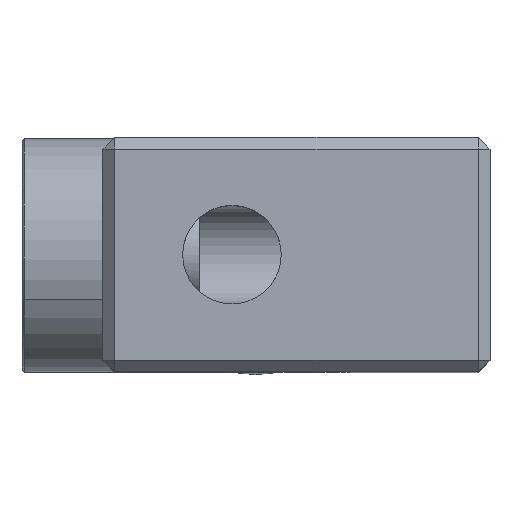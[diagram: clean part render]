
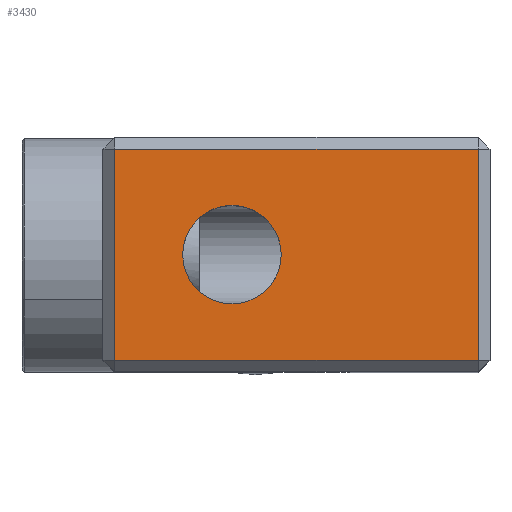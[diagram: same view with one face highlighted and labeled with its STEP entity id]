
A CAD part, top view. The second image highlights one B-rep face of the part: STEP entity #3430.
In plain terms, the highlighted planar face has unit normal (0, 0, 1) as drawn and (0, 1, 0) by its records, which use the part's own axes.
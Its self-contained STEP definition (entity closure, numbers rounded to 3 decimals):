
#270 = CARTESIAN_POINT ( 'NONE',  ( 10.085, 34.272, -11.055 ) ) ;
#362 = VECTOR ( 'NONE', #3264, 1000. ) ;
#1093 = ORIENTED_EDGE ( 'NONE', *, *, #4062, .F. ) ;
#1123 = ORIENTED_EDGE ( 'NONE', *, *, #5067, .T. ) ;
#1283 = VECTOR ( 'NONE', #4379, 1000. ) ;
#1412 = EDGE_CURVE ( 'NONE', #5030, #2108, #5032, .T. ) ;
#1456 = DIRECTION ( 'NONE',  ( 0., 1., 0. ) ) ;
#1856 = VECTOR ( 'NONE', #6981, 1000. ) ;
#1877 = LINE ( 'NONE', #3033, #1283 ) ;
#1913 = LINE ( 'NONE', #4414, #362 ) ;
#1954 = DIRECTION ( 'NONE',  ( 0., 1., 0. ) ) ;
#2071 = PLANE ( 'NONE',  #5127 ) ;
#2108 = VERTEX_POINT ( 'NONE', #2791 ) ;
#2138 = ORIENTED_EDGE ( 'NONE', *, *, #4995, .T. ) ;
#2153 = FACE_OUTER_BOUND ( 'NONE', #7766, .T. ) ;
#2458 = EDGE_CURVE ( 'NONE', #7395, #3835, #1913, .T. ) ;
#2529 = CARTESIAN_POINT ( 'NONE',  ( 5.585, 34.272, -0.555 ) ) ;
#2710 = DIRECTION ( 'NONE',  ( 0., 0., 1. ) ) ;
#2724 = CARTESIAN_POINT ( 'NONE',  ( 1.085, 34.272, -11.055 ) ) ;
#2751 = CARTESIAN_POINT ( 'NONE',  ( 1.085, 34.272, -11.555 ) ) ;
#2755 = CARTESIAN_POINT ( 'NONE',  ( 10.085, 34.272, 4.445 ) ) ;
#2791 = CARTESIAN_POINT ( 'NONE',  ( 5.585, 34.272, 1.545 ) ) ;
#2875 = ORIENTED_EDGE ( 'NONE', *, *, #1412, .F. ) ;
#3033 = CARTESIAN_POINT ( 'NONE',  ( 10.585, 34.272, 4.445 ) ) ;
#3240 = CARTESIAN_POINT ( 'NONE',  ( 0.585, 34.272, -11.055 ) ) ;
#3264 = DIRECTION ( 'NONE',  ( 0., 0., -1. ) ) ;
#3322 = VERTEX_POINT ( 'NONE', #2724 ) ;
#3430 = ADVANCED_FACE ( 'NONE', ( #2153, #7653 ), #2071, .T. ) ;
#3531 = LINE ( 'NONE', #2751, #5897 ) ;
#3761 = DIRECTION ( 'NONE',  ( 0., 0., 1. ) ) ;
#3835 = VERTEX_POINT ( 'NONE', #270 ) ;
#4057 = CARTESIAN_POINT ( 'NONE',  ( 1.085, 34.272, 4.445 ) ) ;
#4062 = EDGE_CURVE ( 'NONE', #2108, #5030, #6677, .T. ) ;
#4178 = ORIENTED_EDGE ( 'NONE', *, *, #6592, .T. ) ;
#4221 = AXIS2_PLACEMENT_3D ( 'NONE', #2529, #1954, #3761 ) ;
#4379 = DIRECTION ( 'NONE',  ( 1., 0., 0. ) ) ;
#4414 = CARTESIAN_POINT ( 'NONE',  ( 10.085, 34.272, -11.555 ) ) ;
#4572 = CARTESIAN_POINT ( 'NONE',  ( 0.585, 34.272, -11.555 ) ) ;
#4650 = DIRECTION ( 'NONE',  ( 0., 0., 1. ) ) ;
#4795 = ORIENTED_EDGE ( 'NONE', *, *, #2458, .T. ) ;
#4970 = EDGE_LOOP ( 'NONE', ( #1093, #2875 ) ) ;
#4995 = EDGE_CURVE ( 'NONE', #3835, #3322, #7552, .T. ) ;
#5030 = VERTEX_POINT ( 'NONE', #5203 ) ;
#5032 = CIRCLE ( 'NONE', #7238, 2.1 ) ;
#5067 = EDGE_CURVE ( 'NONE', #3322, #6911, #3531, .T. ) ;
#5127 = AXIS2_PLACEMENT_3D ( 'NONE', #4572, #1456, #4650 ) ;
#5203 = CARTESIAN_POINT ( 'NONE',  ( 5.585, 34.272, -2.655 ) ) ;
#5455 = DIRECTION ( 'NONE',  ( 0., 0., 1. ) ) ;
#5897 = VECTOR ( 'NONE', #2710, 1000. ) ;
#6065 = CARTESIAN_POINT ( 'NONE',  ( 5.585, 34.272, -0.555 ) ) ;
#6592 = EDGE_CURVE ( 'NONE', #6911, #7395, #1877, .T. ) ;
#6673 = DIRECTION ( 'NONE',  ( 0., 1., 0. ) ) ;
#6677 = CIRCLE ( 'NONE', #4221, 2.1 ) ;
#6911 = VERTEX_POINT ( 'NONE', #4057 ) ;
#6981 = DIRECTION ( 'NONE',  ( -1., 0., 0. ) ) ;
#7238 = AXIS2_PLACEMENT_3D ( 'NONE', #6065, #6673, #5455 ) ;
#7395 = VERTEX_POINT ( 'NONE', #2755 ) ;
#7552 = LINE ( 'NONE', #3240, #1856 ) ;
#7653 = FACE_BOUND ( 'NONE', #4970, .T. ) ;
#7766 = EDGE_LOOP ( 'NONE', ( #4178, #4795, #2138, #1123 ) ) ;
